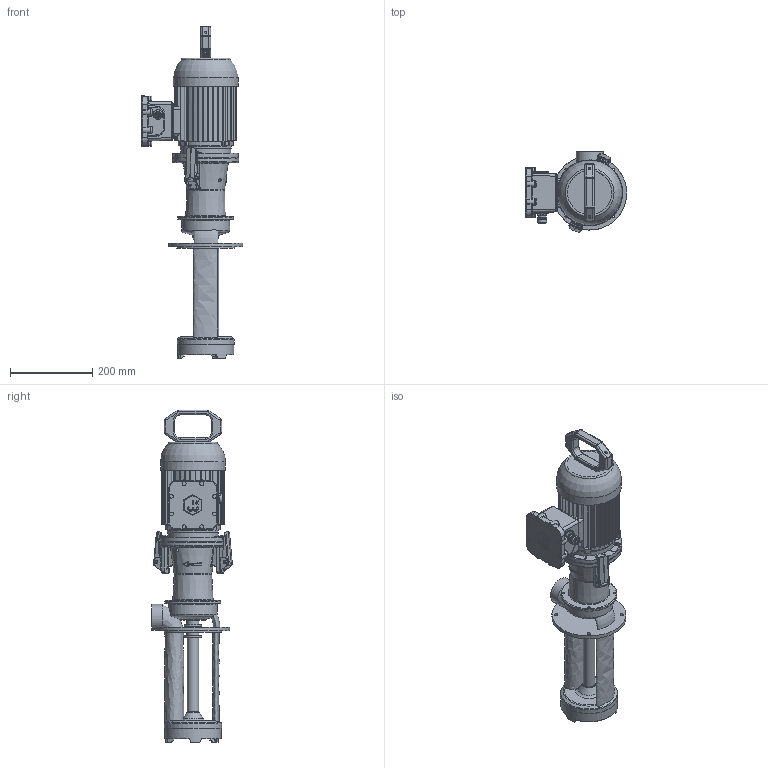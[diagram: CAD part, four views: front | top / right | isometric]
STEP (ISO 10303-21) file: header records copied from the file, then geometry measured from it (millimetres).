
FILE_DESCRIPTION(/* description */ ('Unknown'),/* implementation_level */ '2;1');
FILE_NAME(/* name */ 'EP EX 350-270',/* time_stamp */ '2025-06-02T13:13:18+03:00',/* author */ ('Unknown'),/* organization */ ('Unknown'),/* preprocessor_version */ 'ST-DEVELOPER v16.7',/* originating_system */ 'DEX',/* authorisation */ $);
FILE_SCHEMA (('AUTOMOTIVE_DESIGN {1 0 10303 214 3 1 1}'));
Length unit declared in the file: millimetre
Products named in the file (1): EP EX 350-270
Bounding box: 246.5 x 195.43 x 806.45 mm (x, y, z)
Volume: 7758443.4 mm3; surface area: 722832.4 mm2
Topology: 1 solids, 22 shells, 2297 faces, 6059 edges, 3780 vertices
Faces by surface type: cylinder 802, plane 730, bspline 404, torus 201, cone 113, sphere 47
Full cylindrical faces by diameter (mm): 3 x12, 3.242 x16, 4 x10, 4.134 x24, 4.9 x4, 5 x90, 5.3 x4, 5.5 x2, 5.7 x8, 6 x8, 7 x8, 8 x3, 9.5 x8, 12 x1, 13 x2, 13.962 x1, 16 x1, 18.348 x1, 18.376 x5, 19 x1, 20 x2, 21.8 x2, 28 x1, 29 x3, 30 x1, 42 x3, 44 x1, 48 x1, 62 x1, 73 x1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
Entity records: 109777 total; most frequent: CARTESIAN_POINT 43445, ORIENTED_EDGE 10866, DIRECTION 9982, EDGE_CURVE 5433, AXIS2_PLACEMENT_3D 4017, VERTEX_POINT 3586, FACE_BOUND 2697, EDGE_LOOP 2689
